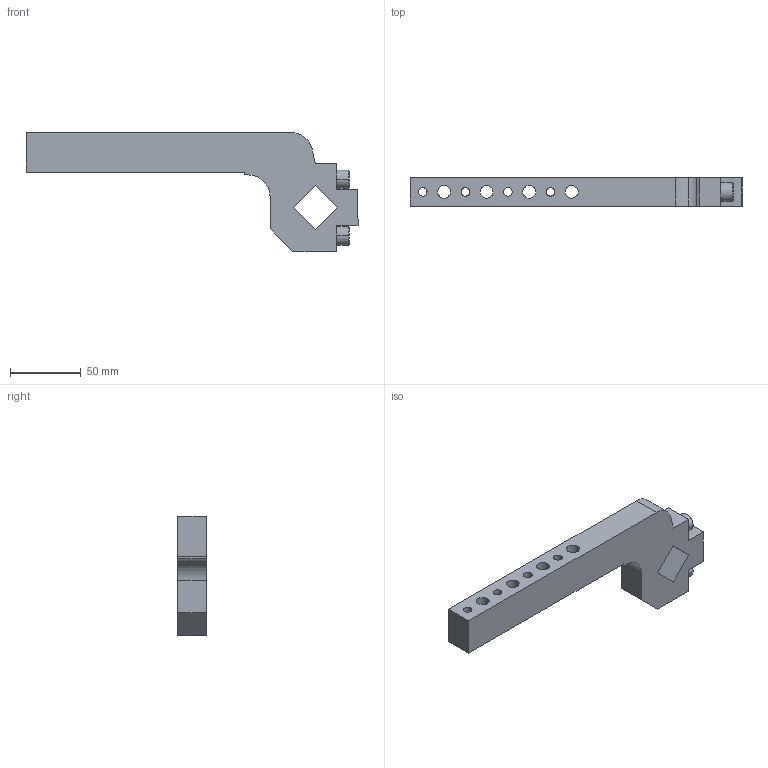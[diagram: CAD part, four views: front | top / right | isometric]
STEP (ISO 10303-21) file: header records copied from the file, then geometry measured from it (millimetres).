
FILE_DESCRIPTION((''),'2;1');
FILE_NAME('S:\Matthew\Step Files\XM Clamp Arms\XJ63-02.stp','2006-06-28T08:13:18',('Matthew'),(''),'Autodesk Inventor 8','Autodesk Inventor 8','');
FILE_SCHEMA(('AUTOMOTIVE_DESIGN { 1 0 10303 214 1 1 1 1 }'));
Length unit declared in the file: millimetre
Products named in the file (1): XJ63-02
Bounding box: 234 x 20 x 84 mm (x, y, z)
Volume: 156174.6 mm3; surface area: 35647.8 mm2
Topology: 1 solids, 1 shells, 51 faces, 137 edges, 90 vertices
Faces by surface type: cylinder 22, plane 22, bspline 5, cone 2
Entity records: 1722 total; most frequent: CARTESIAN_POINT 350, DIRECTION 283, ORIENTED_EDGE 274, EDGE_CURVE 137, AXIS2_PLACEMENT_3D 99, VERTEX_POINT 90, VECTOR 85, LINE 85
